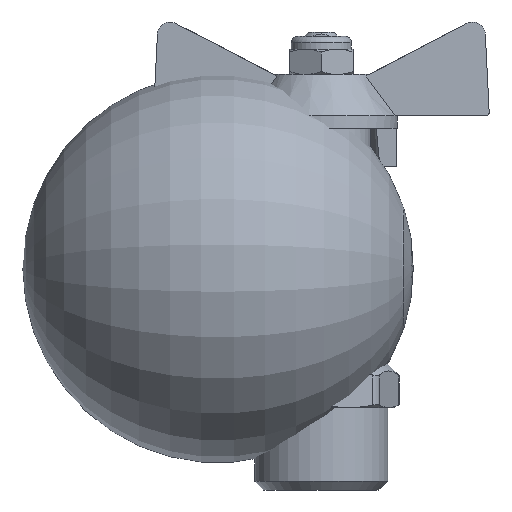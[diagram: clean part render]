
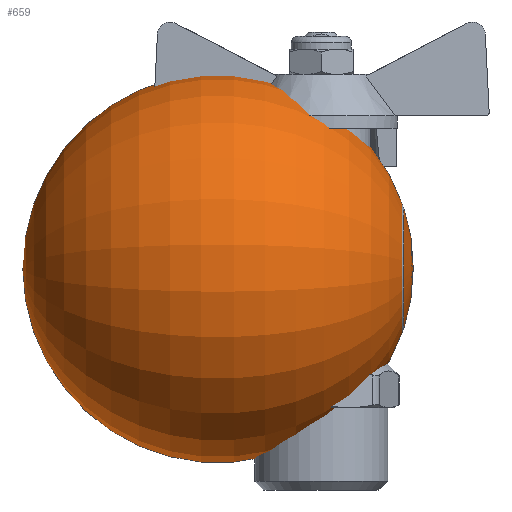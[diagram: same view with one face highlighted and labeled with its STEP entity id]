
A CAD part, left-side view. The second image highlights one B-rep face of the part: STEP entity #659.
In plain terms, the highlighted toroidal (fillet/blend) face has major radius 0.1 mm and minor radius 30.8 mm.
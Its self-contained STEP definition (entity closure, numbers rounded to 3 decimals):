
#659=ADVANCED_FACE('',(#5771),#5773,.T.);
#5771=FACE_BOUND('',#5772,.T.);
#5772=EDGE_LOOP('',(#10921,#10922));
#5773=DEGENERATE_TOROIDAL_SURFACE('',#5774,0.1,30.8,.T.);
#5774=AXIS2_PLACEMENT_3D('',#5775,#5776,#5777);
#5775=CARTESIAN_POINT('',(0.,16.3,0.));
#5776=DIRECTION('',(0.,1.,0.));
#5777=DIRECTION('',(0.,0.,1.));
#10921=ORIENTED_EDGE('',*,*,#13210,.T.);
#10922=ORIENTED_EDGE('',*,*,#13212,.T.);
#13210=EDGE_CURVE('',#16118,#16116,#16119,.T.);
#13212=EDGE_CURVE('',#16116,#16118,#16121,.T.);
#16116=VERTEX_POINT('',#27686);
#16118=VERTEX_POINT('',#27691);
#16119=CIRCLE('',#27692,9.642);
#16121=CIRCLE('',#27700,9.642);
#27686=CARTESIAN_POINT('',(0.,-12.985,9.642));
#27691=CARTESIAN_POINT('',(9.642,-12.985,0.));
#27692=AXIS2_PLACEMENT_3D('',#27693,#27694,#27695);
#27693=CARTESIAN_POINT('',(0.,-12.985,0.));
#27694=DIRECTION('',(0.,-1.,0.));
#27695=DIRECTION('',(1.,0.,0.));
#27700=AXIS2_PLACEMENT_3D('',#27701,#27702,#27703);
#27701=CARTESIAN_POINT('',(0.,-12.985,0.));
#27702=DIRECTION('',(0.,-1.,0.));
#27703=DIRECTION('',(0.,0.,1.));
